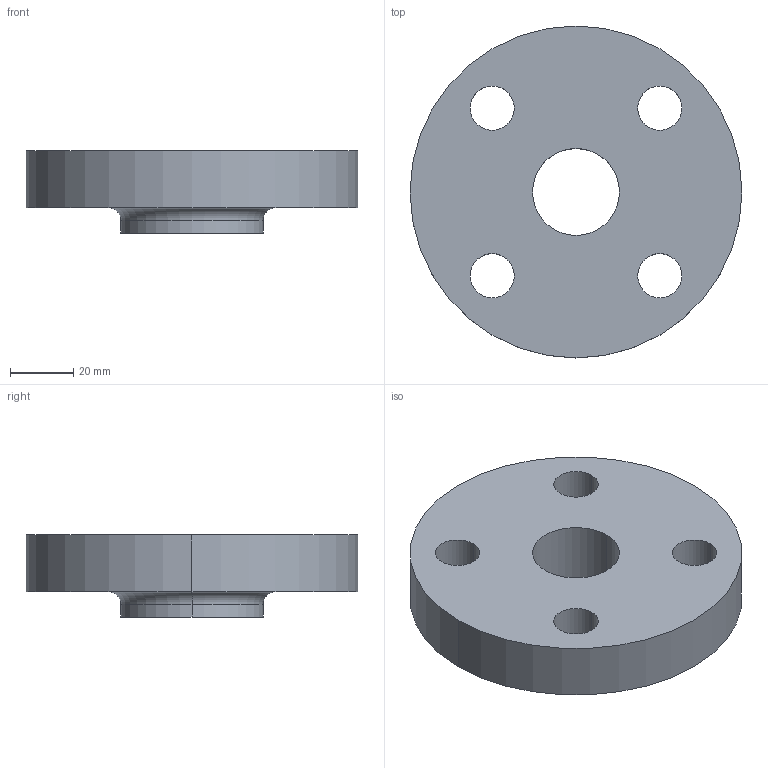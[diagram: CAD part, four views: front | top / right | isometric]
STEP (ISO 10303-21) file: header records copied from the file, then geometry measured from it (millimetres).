
FILE_DESCRIPTION (( 'STEP AP214' ), '1' );
FILE_NAME ('PN40 DN20 Type 12 - Type A Face.STEP', '2018-12-29T18:17:48', ( '' ), ( '' ), 'SwSTEP 2.0', 'SolidWorks 2019', '' );
FILE_SCHEMA (( 'AUTOMOTIVE_DESIGN' ));
Length unit declared in the file: millimetre
Products named in the file (1): PN40 DN20 Type 12 - Type A Face
Bounding box: 105 x 105 x 26 mm (x, y, z)
Volume: 142564 mm3; surface area: 27144.6 mm2
Topology: 1 solids, 1 shells, 19 faces, 46 edges, 30 vertices
Faces by surface type: cylinder 14, plane 3, torus 2
Entity records: 630 total; most frequent: DIRECTION 118, CARTESIAN_POINT 96, ORIENTED_EDGE 92, AXIS2_PLACEMENT_3D 52, EDGE_CURVE 46, CIRCLE 32, EDGE_LOOP 30, VERTEX_POINT 30
